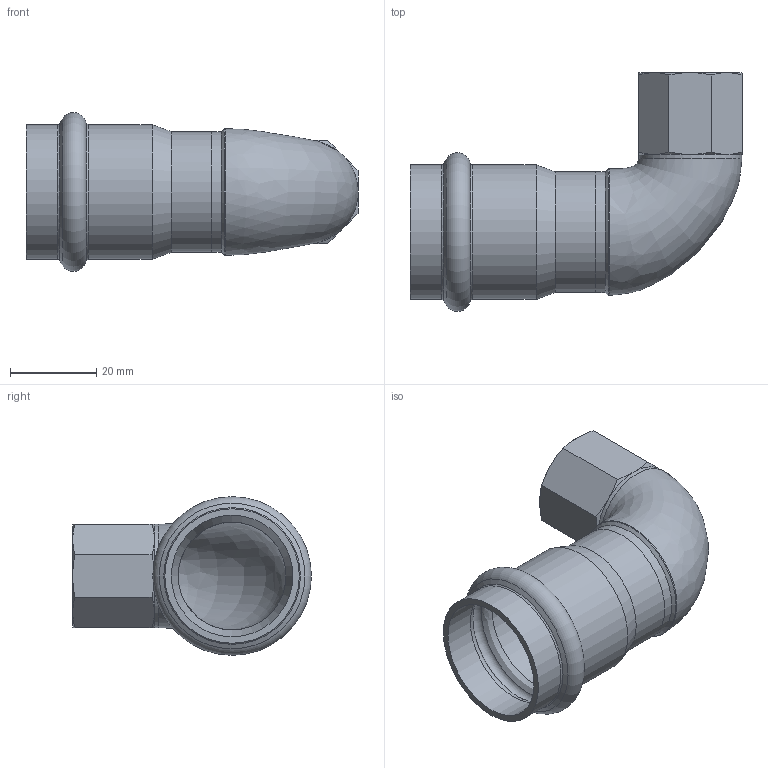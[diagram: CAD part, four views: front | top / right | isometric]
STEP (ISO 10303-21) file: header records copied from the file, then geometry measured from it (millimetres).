
FILE_DESCRIPTION((''),'2;1');
FILE_NAME('G:\Nirosan-Schmiedefeld\Technics\CAD\001 Serie 9.000\028\69090ig2812(0).stp','2019-01-08T09:16:12',('herberg'),(''),'Autodesk Inventor 2009','Autodesk Inventor 2009','');
FILE_SCHEMA(('AUTOMOTIVE_DESIGN { 1 0 10303 214 1 1 1 1 }'));
Length unit declared in the file: millimetre
Products named in the file (3): 69090ig2812(0); 69HM28p(0); G_69090ig2812(0)
Assembly tree (2 placements, depth 2):
  69090ig2812(0)
    69HM28p(0)
    G_69090ig2812(0)
Bounding box: 77 x 55.4 x 36.8 mm (x, y, z)
Volume: 15284.1 mm3; surface area: 16635.7 mm2
Topology: 2 solids, 2 shells, 56 faces, 130 edges, 79 vertices
Faces by surface type: cone 23, plane 13, cylinder 11, bspline 7, torus 2
Full cylindrical faces by diameter (mm): 19.6 x1, 24 x1, 25 x2, 28 x2, 28.2 x2, 29.4 x1, 31.2 x2
Entity records: 1969 total; most frequent: CARTESIAN_POINT 814, DIRECTION 234, ORIENTED_EDGE 202, AXIS2_PLACEMENT_3D 113, EDGE_CURVE 101, EDGE_LOOP 86, VERTEX_POINT 75, CIRCLE 59
